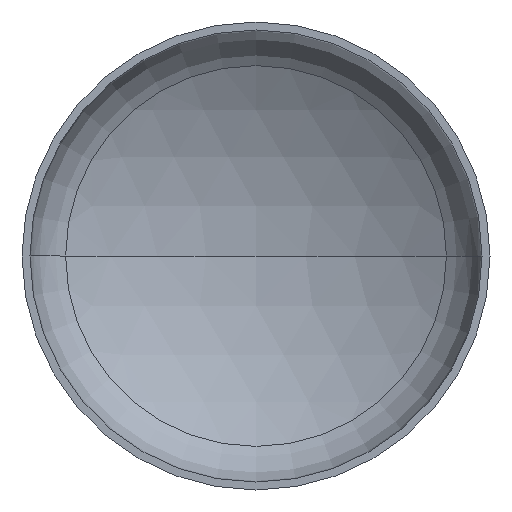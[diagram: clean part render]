
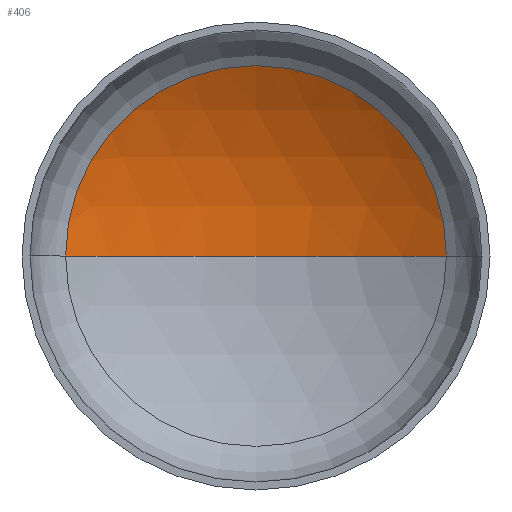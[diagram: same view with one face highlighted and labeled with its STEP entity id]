
A CAD part, front view. The second image highlights one B-rep face of the part: STEP entity #406.
In plain terms, the highlighted spherical face has radius 1600 mm.
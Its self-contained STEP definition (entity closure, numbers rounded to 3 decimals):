
#1 = VERTEX_POINT ( 'NONE', #242 ) ;
#2 = AXIS2_PLACEMENT_3D ( 'NONE', #402, #201, #100 ) ;
#6 = CARTESIAN_POINT ( 'NONE',  ( 0., 376.924, 0. ) ) ;
#8 = VERTEX_POINT ( 'NONE', #284 ) ;
#50 = AXIS2_PLACEMENT_3D ( 'NONE', #328, #178, #177 ) ;
#52 = VERTEX_POINT ( 'NONE', #350 ) ;
#53 = AXIS2_PLACEMENT_3D ( 'NONE', #6, #360, #203 ) ;
#58 = ORIENTED_EDGE ( 'NONE', *, *, #127, .T. ) ;
#93 = ORIENTED_EDGE ( 'NONE', *, *, #345, .F. ) ;
#100 = DIRECTION ( 'NONE',  ( 1., 0., 0. ) ) ;
#113 = CIRCLE ( 'NONE', #50, 1600. ) ;
#114 = EDGE_LOOP ( 'NONE', ( #93, #58, #221 ) ) ;
#126 = EDGE_CURVE ( 'NONE', #52, #8, #303, .T. ) ;
#127 = EDGE_CURVE ( 'NONE', #1, #52, #113, .T. ) ;
#146 = CIRCLE ( 'NONE', #2, 1600. ) ;
#165 = AXIS2_PLACEMENT_3D ( 'NONE', #405, #234, #255 ) ;
#177 = DIRECTION ( 'NONE',  ( -1., 0., 0. ) ) ;
#178 = DIRECTION ( 'NONE',  ( 0., 0., -1. ) ) ;
#201 = DIRECTION ( 'NONE',  ( 0., 0., 1. ) ) ;
#203 = DIRECTION ( 'NONE',  ( 1., 0., 0. ) ) ;
#221 = ORIENTED_EDGE ( 'NONE', *, *, #126, .T. ) ;
#234 = DIRECTION ( 'NONE',  ( 0., 0., -1. ) ) ;
#242 = CARTESIAN_POINT ( 'NONE',  ( 0., 599.251, 0. ) ) ;
#255 = DIRECTION ( 'NONE',  ( -1., 0., 0. ) ) ;
#284 = CARTESIAN_POINT ( 'NONE',  ( -813.643, 376.924, 0. ) ) ;
#303 = CIRCLE ( 'NONE', #53, 813.643 ) ;
#308 = SPHERICAL_SURFACE ( 'NONE', #165, 1600. ) ;
#328 = CARTESIAN_POINT ( 'NONE',  ( 0., -1000.749, 0. ) ) ;
#345 = EDGE_CURVE ( 'NONE', #1, #8, #146, .T. ) ;
#350 = CARTESIAN_POINT ( 'NONE',  ( 813.643, 376.924, 0. ) ) ;
#360 = DIRECTION ( 'NONE',  ( 0., -1., 0. ) ) ;
#372 = FACE_OUTER_BOUND ( 'NONE', #114, .T. ) ;
#402 = CARTESIAN_POINT ( 'NONE',  ( 0., -1000.749, 0. ) ) ;
#405 = CARTESIAN_POINT ( 'NONE',  ( 0., -1000.749, 0. ) ) ;
#406 = ADVANCED_FACE ( 'NONE', ( #372 ), #308, .F. ) ;
